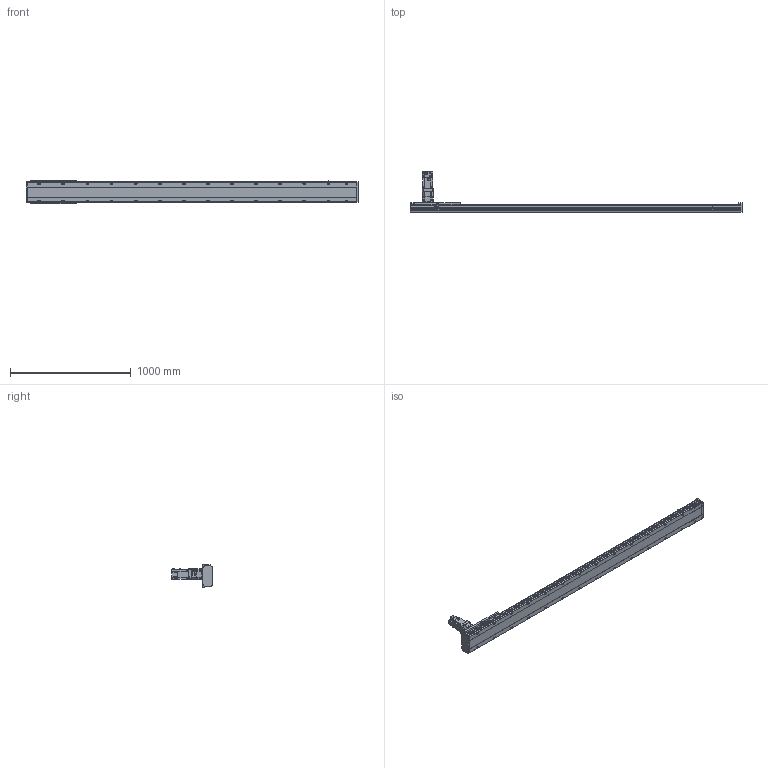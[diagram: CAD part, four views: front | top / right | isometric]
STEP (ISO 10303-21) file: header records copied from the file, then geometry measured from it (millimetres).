
FILE_DESCRIPTION(/* description */ ('STEP AP203'),/* implementation_level */ '2;1');
FILE_NAME(/* name */ 'SHS17A-L13-S2300-BC-T75-C1-N(0)',/* time_stamp */ '2023-03-27T08:58:04+02:00',/* author */ ('License CC BY-ND 4.0'),/* organization */ ('CADENAS'),/* preprocessor_version */ 'ST-DEVELOPER v19.3',/* originating_system */ 'PARTsolutions',/* authorisation */ ' ');
FILE_SCHEMA (('CONFIG_CONTROL_DESIGN'));
Length unit declared in the file: millimetre
Products named in the file (7): SHS17A-L13-S2300-BC-T75-C1-N(0); PSC140-sensor; SHS17A-S2300(0)_body2; T75-p1; SHS17A-S2300_body3; SHS17A-S2300-C1(0)_slider; SHS17A-S2300-C1(0)_body
Assembly tree (13 placements, depth 2):
  SHS17A-L13-S2300-BC-T75-C1-N(0)
    PSC140-sensor  x3
    SHS17A-S2300(0)_body2  x6
    T75-p1
    SHS17A-S2300_body3
    SHS17A-S2300-C1(0)_slider
    SHS17A-S2300-C1(0)_body
Bounding box: 2754 x 333.8 x 193.4 mm (x, y, z)
Volume: 19917483.3 mm3; surface area: 2321500 mm2
Topology: 13 solids, 13 shells, 2104 faces, 5341 edges, 3480 vertices
Faces by surface type: plane 1351, cylinder 668, cone 82, torus 3
Full cylindrical faces by diameter (mm): 2.8 x3, 4.134 x24, 4.5 x2, 4.6 x3, 4.917 x15, 5.5 x48, 6 x7, 6.5 x24, 6.647 x36, 6.8 x9, 8 x3, 8.5 x28, 10 x28, 11 x4, 14 x28, 22 x1, 24 x1, 24.2 x1, 28 x1, 28.2 x1, 28.8 x1, 29.8 x1, 48.542 x1, 68 x1, 70 x1, 78 x1, 80 x2
Entity records: 39808 total; most frequent: CARTESIAN_POINT 7708, DIRECTION 6523, ORIENTED_EDGE 6268, EDGE_CURVE 3134, AXIS2_PLACEMENT_3D 2294, VERTEX_POINT 2203, LINE 1935, VECTOR 1935
